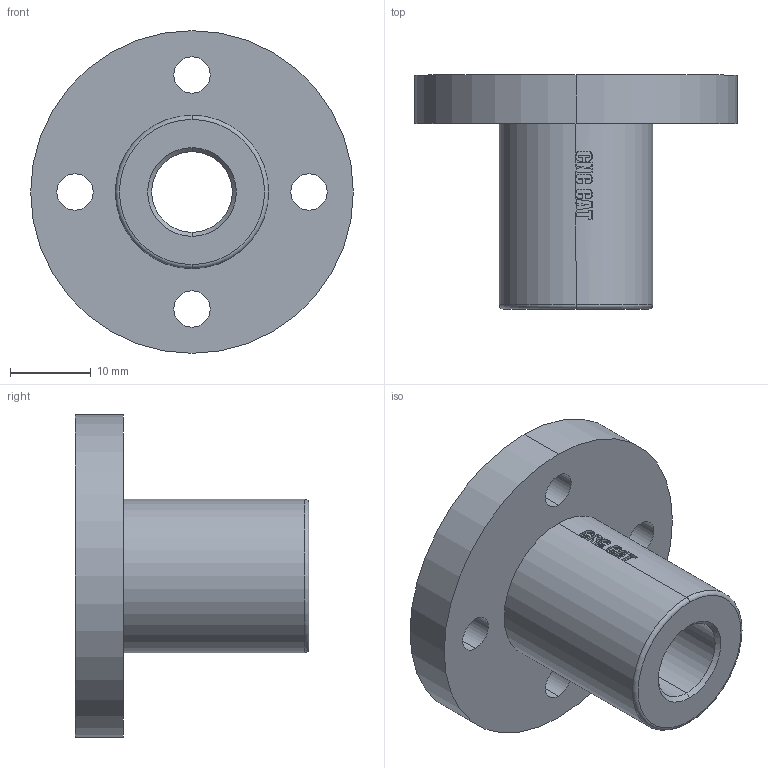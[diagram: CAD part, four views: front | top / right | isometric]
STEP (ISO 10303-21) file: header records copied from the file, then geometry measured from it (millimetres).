
FILE_DESCRIPTION (( 'STEP AP203' ), '1' );
FILE_NAME ('LMF10UU.STEP', '2017-08-10T13:17:31', ( '' ), ( '' ), 'SwSTEP 2.0', 'SolidWorks 2017', '' );
FILE_SCHEMA (( 'CONFIG_CONTROL_DESIGN' ));
Length unit declared in the file: millimetre
Products named in the file (1): LMF10UU
Bounding box: 40 x 29 x 40 mm (x, y, z)
Volume: 11391.2 mm3; surface area: 5599.4 mm2
Topology: 1 solids, 1 shells, 110 faces, 304 edges, 198 vertices
Faces by surface type: plane 48, bspline 32, cylinder 26, cone 2, torus 2
Entity records: 7282 total; most frequent: CARTESIAN_POINT 4646, ORIENTED_EDGE 608, DIRECTION 421, EDGE_CURVE 304, VERTEX_POINT 198, AXIS2_PLACEMENT_3D 165, B_SPLINE_CURVE_WITH_KNOTS 127, EDGE_LOOP 122
